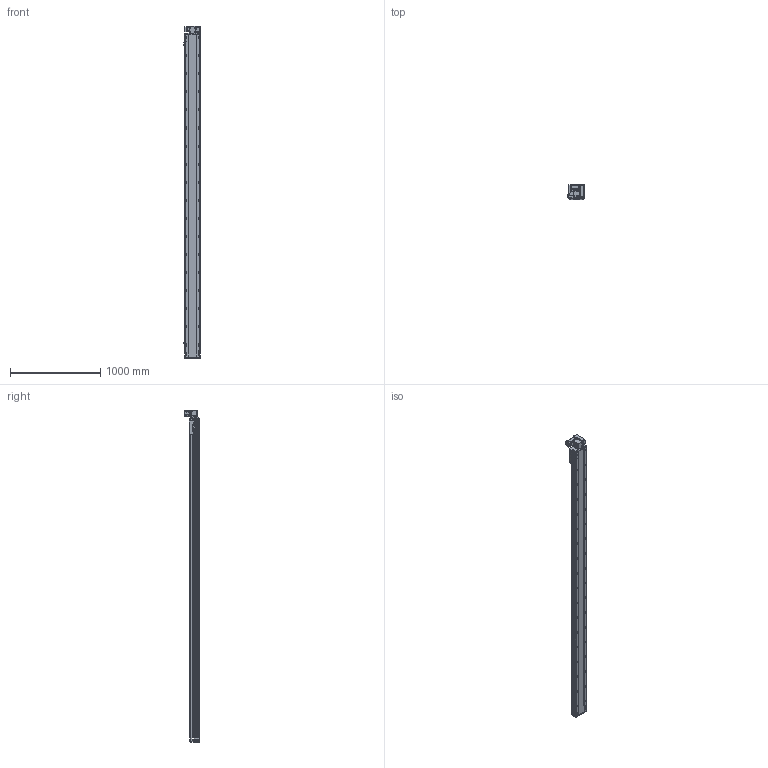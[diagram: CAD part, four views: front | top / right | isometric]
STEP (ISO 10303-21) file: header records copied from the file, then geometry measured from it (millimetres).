
FILE_DESCRIPTION (( 'STEP AP214' ), '1' );
FILE_NAME ('RTB17S-XX-3300-RW-M40-C4.STEP', '2025-12-11T09:19:30', ( '' ), ( '' ), 'SwSTEP 2.0', 'SolidWorks 2018', '' );
FILE_SCHEMA (( 'AUTOMOTIVE_DESIGN' ));
Length unit declared in the file: millimetre
Products named in the file (14): RTB17S-XX-3300-RW-M40-C4; RMP17S-L-014-T20--々湍釱^RTB17S-RW-々湍釱蚾饜-400W_RTB17S-XX-XX-RW-M40-C4; RTB14-L-008-M20--萇儂啣^RTB17S-RW-々湍釱蚾饜-400W_RTB17S-XX-XX-RW-M40-C4; 400W侜督萇儂^RTB17S-XX-XX-RW-M40-C4; RTB14-L-005P--轴承塑胶压盖^RTB17S-RW-皮带座装配-400W_RTB17S-XX-XX-RW-M40-C4; OMRON EE-SX672 传感器^RTB17S-XX-XX-RW-M40-C4; RTB17S-L-001耜醱啣^RTB17S-XX-XX-RW-M40-C4; RTB17S-RW-々湍釱蚾饜-400W^RTB17S-XX-XX-RW-M40-C4; RTB17-R-011菁釱^RTB17S-XX-XX-RW-M40-C4; RTB14-L-017P^RTB17S-RW-々湍釱蚾饜-400W_RTB17S-XX-XX-RW-M40-C4; RTB14-L-018P^RTB17S-RW-々湍釱蚾饜-400W_RTB17S-XX-XX-RW-M40-C4; RTB17S-L-007奻裔^RTB17S-XX-XX-RW-M40-C4; RTB17S-L-004佪裝蹟譫蟀諉釱^RTB17S-XX-XX-RW-M40-C4; RTH13-BL-012覜茼え俋离^RTB17S-XX-XX-RW-M40-C4
Assembly tree (16 placements, depth 3):
  RTB17S-XX-3300-RW-M40-C4
    RTB17-R-011菁釱^RTB17S-XX-XX-RW-M40-C4
    RTB17S-L-007奻裔^RTB17S-XX-XX-RW-M40-C4
    OMRON EE-SX672 传感器^RTB17S-XX-XX-RW-M40-C4  x3
    RTB17S-L-001耜醱啣^RTB17S-XX-XX-RW-M40-C4
    400W侜督萇儂^RTB17S-XX-XX-RW-M40-C4
    RTB17S-L-004佪裝蹟譫蟀諉釱^RTB17S-XX-XX-RW-M40-C4
    RTH13-BL-012覜茼え俋离^RTB17S-XX-XX-RW-M40-C4
    RTB17S-RW-々湍釱蚾饜-400W^RTB17S-XX-XX-RW-M40-C4
      RMP17S-L-014-T20--々湍釱^RTB17S-RW-々湍釱蚾饜-400W_RTB17S-XX-XX-RW-M40-C4
      RTB14-L-005P--轴承塑胶压盖^RTB17S-RW-皮带座装配-400W_RTB17S-XX-XX-RW-M40-C4
      RTB14-L-008-M20--萇儂啣^RTB17S-RW-々湍釱蚾饜-400W_RTB17S-XX-XX-RW-M40-C4
      RTB14-L-017P^RTB17S-RW-々湍釱蚾饜-400W_RTB17S-XX-XX-RW-M40-C4  x2
      RTB14-L-018P^RTB17S-RW-々湍釱蚾饜-400W_RTB17S-XX-XX-RW-M40-C4
Bounding box: 183.5 x 160.5 x 3672.5 mm (x, y, z)
Volume: 31128025.1 mm3; surface area: 3544334.3 mm2
Topology: 15 solids, 15 shells, 2397 faces, 6735 edges, 4401 vertices
Faces by surface type: plane 1092, cylinder 857, bspline 301, cone 139, torus 8
Entity records: 71849 total; most frequent: CARTESIAN_POINT 20540, ORIENTED_EDGE 10314, DIRECTION 9476, EDGE_CURVE 5157, VERTEX_POINT 3389, AXIS2_PLACEMENT_3D 3319, VECTOR 2838, LINE 2838
